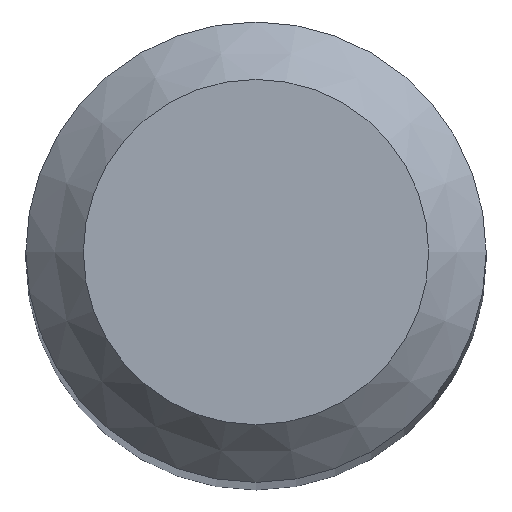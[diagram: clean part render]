
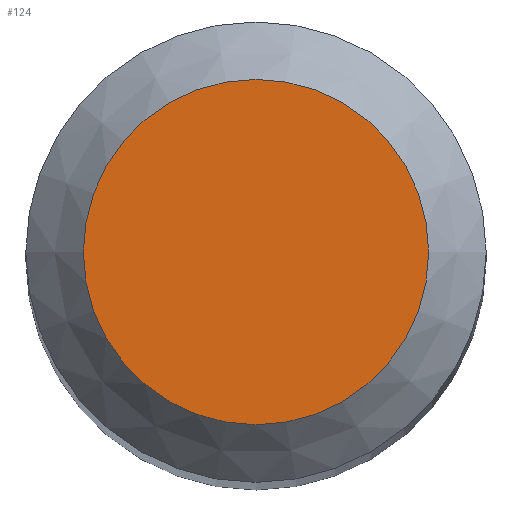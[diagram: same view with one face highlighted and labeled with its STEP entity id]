
A CAD part, top view. The second image highlights one B-rep face of the part: STEP entity #124.
In plain terms, the highlighted planar face has unit normal (0, 0, 1).
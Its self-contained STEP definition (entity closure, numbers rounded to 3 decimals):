
#108=CARTESIAN_POINT('',(1.5,0.0,52.));
#109=DIRECTION('',(0.0,0.0,1.0));
#110=DIRECTION('',(1.0,0.0,0.0));
#111=AXIS2_PLACEMENT_3D('',#108,#109,#110);
#112=PLANE('',#111);
#113=CARTESIAN_POINT('',(-1.5,0.0,52.));
#114=VERTEX_POINT('',#113);
#115=CARTESIAN_POINT('',(0.0,0.0,52.));
#116=DIRECTION('',(0.0,0.0,-1.0));
#117=DIRECTION('',(-1.0,0.0,0.0));
#118=AXIS2_PLACEMENT_3D('',#115,#116,#117);
#119=CIRCLE('',#118,1.5);
#120=EDGE_CURVE('',#114,#114,#119,.T.);
#121=ORIENTED_EDGE('',*,*,#120,.F.);
#122=EDGE_LOOP('',(#121));
#123=FACE_OUTER_BOUND('',#122,.T.);
#124=ADVANCED_FACE('',(#123),#112,.T.);
